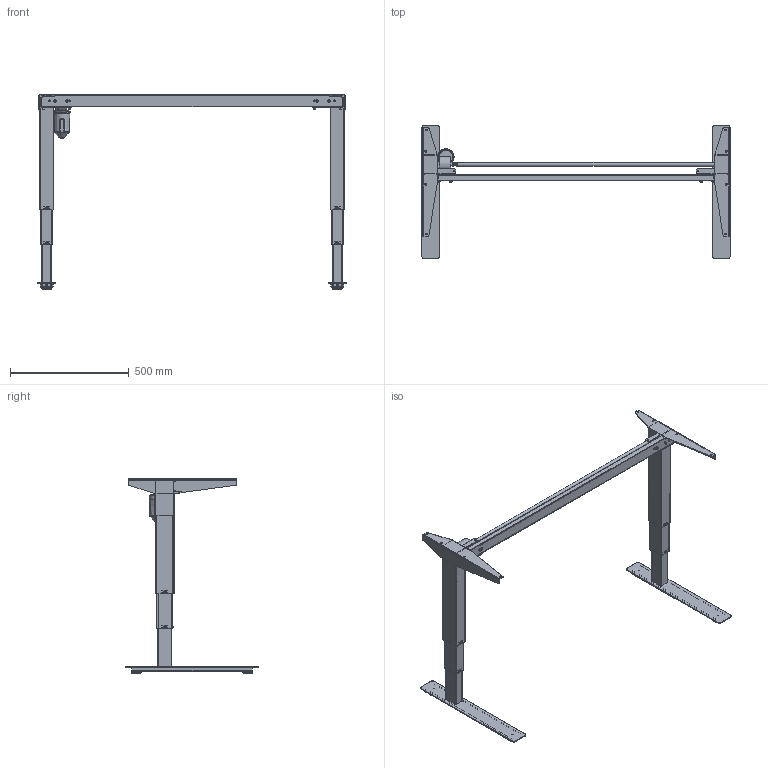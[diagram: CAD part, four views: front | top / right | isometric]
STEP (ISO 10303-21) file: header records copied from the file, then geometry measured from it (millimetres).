
FILE_DESCRIPTION (( 'STEP AP203' ), '1' );
FILE_NAME ('Tech-draw_501-37_XX129.STEP', '2019-09-25T11:33:21', ( '' ), ( '' ), 'SwSTEP 2.0', 'SolidWorks 2018', '' );
FILE_SCHEMA (( 'CONFIG_CONTROL_DESIGN' ));
Length unit declared in the file: millimetre
Products named in the file (32): 148070_silver1; 347920_129; 138760_silver; 344430_silver; 134920_silver1; 134950_silver1; 138780_silver; 138750_silver; 340540_shell view; 340760; 344070_shell view; 332570; 341180_shell view; 352610; 138770_silver; 138790_silver1; 341150_shell view; 348720_shell view; 344080; 341220; 347910_129; 324520_silver; 341140_shell view; 341130; 149010_501-37 XS129; 341800_silver; Tech-draw_501-37_XX129; 341170_shell view; 340560; 138800_silver1; 144260_129; 341120
Assembly tree (59 placements, depth 6):
  Tech-draw_501-37_XX129
    149010_501-37 XS129
      347910_129
      144260_129
        347920_129
        340560
        341220
      138760_silver
        148070_silver1
          341130
          341180_shell view
          348720_shell view
        138780_silver
          138800_silver1
            341150_shell view
            344070_shell view
            344080
          134950_silver1
            341140_shell view
          341800_silver  x4
        341800_silver  x4
        324520_silver  x2
        344430_silver
        352610
      138750_silver
        134920_silver1
          341120
          341170_shell view
          340540_shell view
        138770_silver
          138790_silver1
            341150_shell view
            344070_shell view
            344080
          134950_silver1
            341140_shell view
          341800_silver  x4
        341800_silver  x4
        324520_silver  x2
      340760  x4
      332570  x4
Bounding box: 1299 x 558.8 x 817 mm (x, y, z)
Volume: 2733944.1 mm3; surface area: 2454564.6 mm2
Topology: 48 solids, 48 shells, 2808 faces, 7150 edges, 4475 vertices
Faces by surface type: plane 1641, cylinder 823, bspline 224, cone 69, torus 51
Full cylindrical faces by diameter (mm): 2.8 x4, 3 x2, 4.6 x4, 5 x4, 6 x10, 7 x8, 7.6 x4, 8 x13, 10 x8, 11.9 x2, 12 x1, 13 x2, 15 x4, 16 x2, 18 x1, 20 x1, 37.6 x8, 60 x1
Entity records: 70590 total; most frequent: CARTESIAN_POINT 30171, ORIENTED_EDGE 7766, DIRECTION 7278, EDGE_CURVE 3883, AXIS2_PLACEMENT_3D 2658, VERTEX_POINT 2509, VECTOR 1962, LINE 1962
